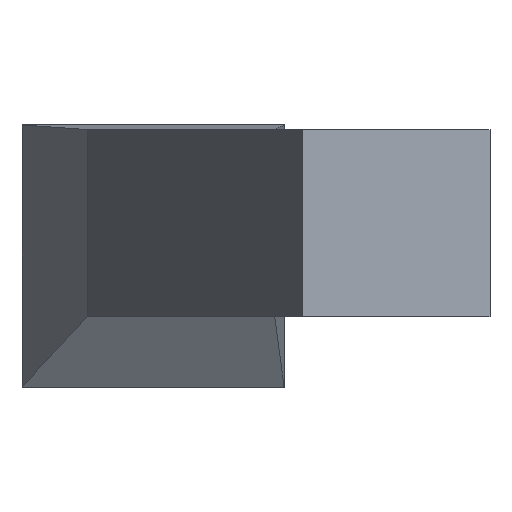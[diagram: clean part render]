
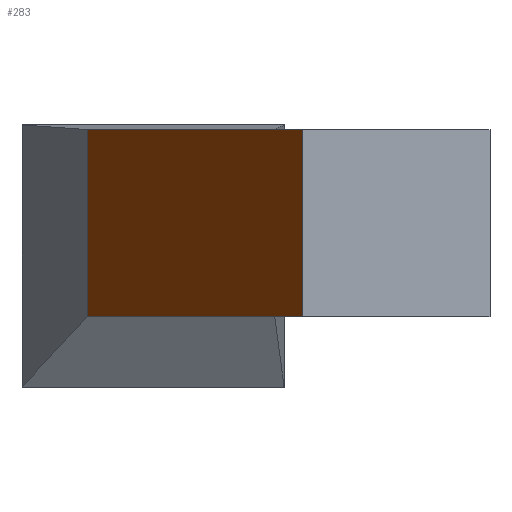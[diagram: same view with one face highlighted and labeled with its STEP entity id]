
A CAD part, front view. The second image highlights one B-rep face of the part: STEP entity #283.
In plain terms, the highlighted planar face has unit normal (-0.92, -0.392, 0).
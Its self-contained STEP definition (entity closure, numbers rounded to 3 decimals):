
#22 = VERTEX_POINT('',#23);
#23 = CARTESIAN_POINT('',(8.,-24.,5.9));
#32 = B_SPLINE_SURFACE_WITH_KNOTS('',1,1,(
    (#33,#34)
    ,(#35,#36)),.UNSPECIFIED.,.F.,.F.,.F.,(2,2),(2,2),(0.,2.),(0.,1.),
  .PIECEWISE_BEZIER_KNOTS.);
#33 = CARTESIAN_POINT('',(8.,-24.,5.9));
#34 = CARTESIAN_POINT('',(5.7,-18.6,5.9));
#35 = CARTESIAN_POINT('',(10.,-24.,5.9));
#36 = CARTESIAN_POINT('',(7.7,-18.6,5.9));
#44 = PLANE('',#45);
#45 = AXIS2_PLACEMENT_3D('',#46,#47,#48);
#46 = CARTESIAN_POINT('',(8.,-24.,5.9));
#47 = DIRECTION('',(0.,1.,0.));
#48 = DIRECTION('',(0.707,-0.,0.707));
#83 = VERTEX_POINT('',#84);
#84 = CARTESIAN_POINT('',(5.7,-18.6,5.9));
#109 = EDGE_CURVE('',#22,#83,#110,.T.);
#110 = SURFACE_CURVE('',#111,(#114,#121),.PCURVE_S1.);
#111 = B_SPLINE_CURVE_WITH_KNOTS('',1,(#112,#113),.UNSPECIFIED.,.F.,.F.,
  (2,2),(0.,1.),.PIECEWISE_BEZIER_KNOTS.);
#112 = CARTESIAN_POINT('',(8.,-24.,5.9));
#113 = CARTESIAN_POINT('',(5.7,-18.6,5.9));
#114 = PCURVE('',#32,#115);
#115 = DEFINITIONAL_REPRESENTATION('',(#116),#120);
#116 = LINE('',#117,#118);
#117 = CARTESIAN_POINT('',(0.,0.));
#118 = VECTOR('',#119,1.);
#119 = DIRECTION('',(0.,1.));
#120 = ( GEOMETRIC_REPRESENTATION_CONTEXT(2) 
PARAMETRIC_REPRESENTATION_CONTEXT() REPRESENTATION_CONTEXT('2D SPACE',''
  ) );
#121 = PCURVE('',#122,#127);
#122 = PLANE('',#123);
#123 = AXIS2_PLACEMENT_3D('',#124,#125,#126);
#124 = CARTESIAN_POINT('',(5.7,-18.6,7.9));
#125 = DIRECTION('',(0.92,0.392,0.));
#126 = DIRECTION('',(0.,0.,-1.));
#127 = DEFINITIONAL_REPRESENTATION('',(#128),#131);
#128 = B_SPLINE_CURVE_WITH_KNOTS('',1,(#129,#130),.UNSPECIFIED.,.F.,.F.,
  (2,2),(0.,1.),.PIECEWISE_BEZIER_KNOTS.);
#129 = CARTESIAN_POINT('',(2.,-5.869));
#130 = CARTESIAN_POINT('',(2.,0.));
#131 = ( GEOMETRIC_REPRESENTATION_CONTEXT(2) 
PARAMETRIC_REPRESENTATION_CONTEXT() REPRESENTATION_CONTEXT('2D SPACE',''
  ) );
#173 = B_SPLINE_SURFACE_WITH_KNOTS('',1,1,(
    (#174,#175)
    ,(#176,#177)),.UNSPECIFIED.,.F.,.F.,.F.,(2,2),(2,2),(0.,2.),(0.,1.),
  .PIECEWISE_BEZIER_KNOTS.);
#174 = CARTESIAN_POINT('',(10.,-24.,7.9));
#175 = CARTESIAN_POINT('',(7.7,-18.6,7.9));
#176 = CARTESIAN_POINT('',(8.,-24.,7.9));
#177 = CARTESIAN_POINT('',(5.7,-18.6,7.9));
#215 = VERTEX_POINT('',#216);
#216 = CARTESIAN_POINT('',(8.,-24.,7.9));
#237 = EDGE_CURVE('',#215,#238,#240,.T.);
#238 = VERTEX_POINT('',#239);
#239 = CARTESIAN_POINT('',(5.7,-18.6,7.9));
#240 = SURFACE_CURVE('',#241,(#244,#251),.PCURVE_S1.);
#241 = B_SPLINE_CURVE_WITH_KNOTS('',1,(#242,#243),.UNSPECIFIED.,.F.,.F.,
  (2,2),(0.,1.),.PIECEWISE_BEZIER_KNOTS.);
#242 = CARTESIAN_POINT('',(8.,-24.,7.9));
#243 = CARTESIAN_POINT('',(5.7,-18.6,7.9));
#244 = PCURVE('',#173,#245);
#245 = DEFINITIONAL_REPRESENTATION('',(#246),#250);
#246 = LINE('',#247,#248);
#247 = CARTESIAN_POINT('',(2.,0.));
#248 = VECTOR('',#249,1.);
#249 = DIRECTION('',(0.,1.));
#250 = ( GEOMETRIC_REPRESENTATION_CONTEXT(2) 
PARAMETRIC_REPRESENTATION_CONTEXT() REPRESENTATION_CONTEXT('2D SPACE',''
  ) );
#251 = PCURVE('',#122,#252);
#252 = DEFINITIONAL_REPRESENTATION('',(#253),#256);
#253 = B_SPLINE_CURVE_WITH_KNOTS('',1,(#254,#255),.UNSPECIFIED.,.F.,.F.,
  (2,2),(0.,1.),.PIECEWISE_BEZIER_KNOTS.);
#254 = CARTESIAN_POINT('',(0.,-5.869));
#255 = CARTESIAN_POINT('',(0.,0.));
#256 = ( GEOMETRIC_REPRESENTATION_CONTEXT(2) 
PARAMETRIC_REPRESENTATION_CONTEXT() REPRESENTATION_CONTEXT('2D SPACE',''
  ) );
#283 = ADVANCED_FACE('',(#284),#122,.F.);
#284 = FACE_BOUND('',#285,.F.);
#285 = EDGE_LOOP('',(#286,#307,#308,#333));
#286 = ORIENTED_EDGE('',*,*,#287,.T.);
#287 = EDGE_CURVE('',#215,#22,#288,.T.);
#288 = SURFACE_CURVE('',#289,(#293,#300),.PCURVE_S1.);
#289 = LINE('',#290,#291);
#290 = CARTESIAN_POINT('',(8.,-24.,7.9));
#291 = VECTOR('',#292,1.);
#292 = DIRECTION('',(0.,0.,-1.));
#293 = PCURVE('',#122,#294);
#294 = DEFINITIONAL_REPRESENTATION('',(#295),#299);
#295 = LINE('',#296,#297);
#296 = CARTESIAN_POINT('',(0.,-5.869));
#297 = VECTOR('',#298,1.);
#298 = DIRECTION('',(1.,0.));
#299 = ( GEOMETRIC_REPRESENTATION_CONTEXT(2) 
PARAMETRIC_REPRESENTATION_CONTEXT() REPRESENTATION_CONTEXT('2D SPACE',''
  ) );
#300 = PCURVE('',#44,#301);
#301 = DEFINITIONAL_REPRESENTATION('',(#302),#306);
#302 = LINE('',#303,#304);
#303 = CARTESIAN_POINT('',(1.414,-1.414));
#304 = VECTOR('',#305,1.);
#305 = DIRECTION('',(-0.707,0.707));
#306 = ( GEOMETRIC_REPRESENTATION_CONTEXT(2) 
PARAMETRIC_REPRESENTATION_CONTEXT() REPRESENTATION_CONTEXT('2D SPACE',''
  ) );
#307 = ORIENTED_EDGE('',*,*,#109,.T.);
#308 = ORIENTED_EDGE('',*,*,#309,.F.);
#309 = EDGE_CURVE('',#238,#83,#310,.T.);
#310 = SURFACE_CURVE('',#311,(#315,#322),.PCURVE_S1.);
#311 = LINE('',#312,#313);
#312 = CARTESIAN_POINT('',(5.7,-18.6,7.9));
#313 = VECTOR('',#314,1.);
#314 = DIRECTION('',(0.,0.,-1.));
#315 = PCURVE('',#122,#316);
#316 = DEFINITIONAL_REPRESENTATION('',(#317),#321);
#317 = LINE('',#318,#319);
#318 = CARTESIAN_POINT('',(0.,0.));
#319 = VECTOR('',#320,1.);
#320 = DIRECTION('',(1.,0.));
#321 = ( GEOMETRIC_REPRESENTATION_CONTEXT(2) 
PARAMETRIC_REPRESENTATION_CONTEXT() REPRESENTATION_CONTEXT('2D SPACE',''
  ) );
#322 = PCURVE('',#323,#328);
#323 = B_SPLINE_SURFACE_WITH_KNOTS('',1,1,(
    (#324,#325)
    ,(#326,#327
  )),.UNSPECIFIED.,.F.,.F.,.F.,(2,2),(2,2),(0.,2.8),(0.,1.),
  .PIECEWISE_BEZIER_KNOTS.);
#324 = CARTESIAN_POINT('',(5.7,-18.6,7.9));
#325 = CARTESIAN_POINT('',(5.,-16.3,7.95));
#326 = CARTESIAN_POINT('',(5.7,-18.6,5.9));
#327 = CARTESIAN_POINT('',(5.,-16.3,5.15));
#328 = DEFINITIONAL_REPRESENTATION('',(#329),#332);
#329 = B_SPLINE_CURVE_WITH_KNOTS('',1,(#330,#331),.UNSPECIFIED.,.F.,.F.,
  (2,2),(0.,2.),.PIECEWISE_BEZIER_KNOTS.);
#330 = CARTESIAN_POINT('',(0.,0.));
#331 = CARTESIAN_POINT('',(2.8,0.));
#332 = ( GEOMETRIC_REPRESENTATION_CONTEXT(2) 
PARAMETRIC_REPRESENTATION_CONTEXT() REPRESENTATION_CONTEXT('2D SPACE',''
  ) );
#333 = ORIENTED_EDGE('',*,*,#237,.F.);
